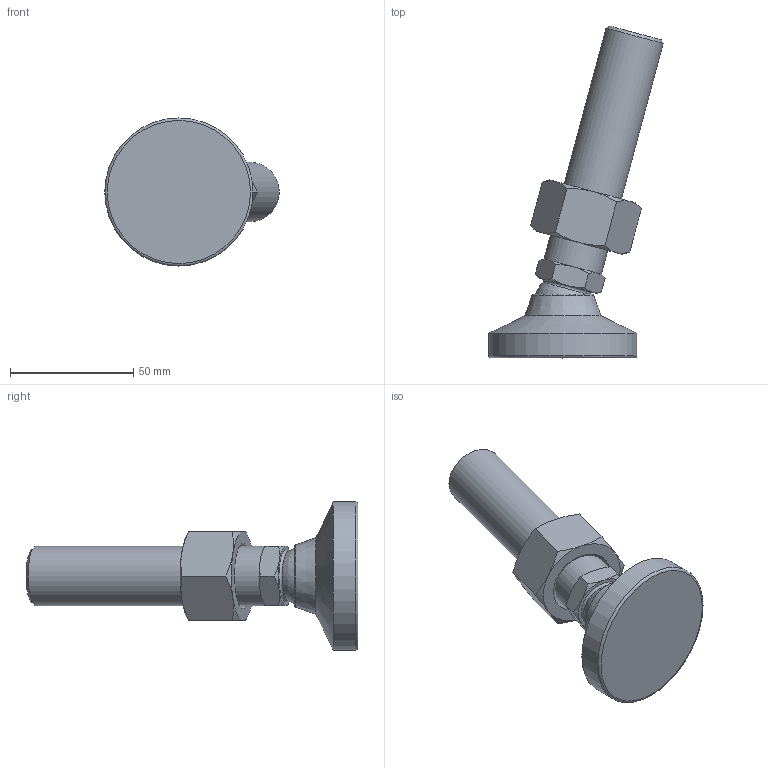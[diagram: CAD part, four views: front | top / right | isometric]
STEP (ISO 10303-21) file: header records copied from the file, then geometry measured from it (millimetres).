
FILE_DESCRIPTION( ( 'STEP AP214' ), ' ' );
FILE_NAME( 'O:/ganter_2015/teil_2/2_5/gn343_2/gn343_2_kse/Levelling foot with threaded stud GN 343.2-60-M24-98-KSE-(-15).stp', '2015-10-26T09:17:47', ( '' ), ( '' ), ' ', 'PARTsolutions', ' ' );
FILE_SCHEMA( ( 'AUTOMOTIVE_DESIGN { 1 0 10303 214 1 1 1 1 }' ) );
Length unit declared in the file: millimetre
Products named in the file (4): Levelling foot with threaded stud GN 343.2-60-M24-98-KSE-(-15); _Levelling foot with threaded stud GN 343.2-60-M24-98-KSE-(-15)_foot; _Levelling foot with threaded stud GN 343.2-60-M24-98-KSE-(-15)_screw; _Levelling foot with threaded stud GN 343.2-60-M24-98-KSE-(-15)_nut
Assembly tree (3 placements, depth 2):
  Levelling foot with threaded stud GN 343.2-60-M24-98-KSE-(-15)
    _Levelling foot with threaded stud GN 343.2-60-M24-98-KSE-(-15)_foot
    _Levelling foot with threaded stud GN 343.2-60-M24-98-KSE-(-15)_screw
    _Levelling foot with threaded stud GN 343.2-60-M24-98-KSE-(-15)_nut
Bounding box: 70.64 x 134.43 x 60 mm (x, y, z)
Volume: 111323.2 mm3; surface area: 24390.4 mm2
Topology: 3 solids, 3 shells, 55 faces, 116 edges, 67 vertices
Faces by surface type: cone 29, plane 18, torus 3, cylinder 3, sphere 2
Full cylindrical faces by diameter (mm): 20.752 x1, 24 x1, 60 x1
Entity records: 2078 total; most frequent: CARTESIAN_POINT 535, DIRECTION 208, ORIENTED_EDGE 198, EDGE_CURVE 99, AXIS2_PLACEMENT_3D 98, EDGE_LOOP 70, VERTEX_POINT 65, FACE_OUTER_BOUND 61
